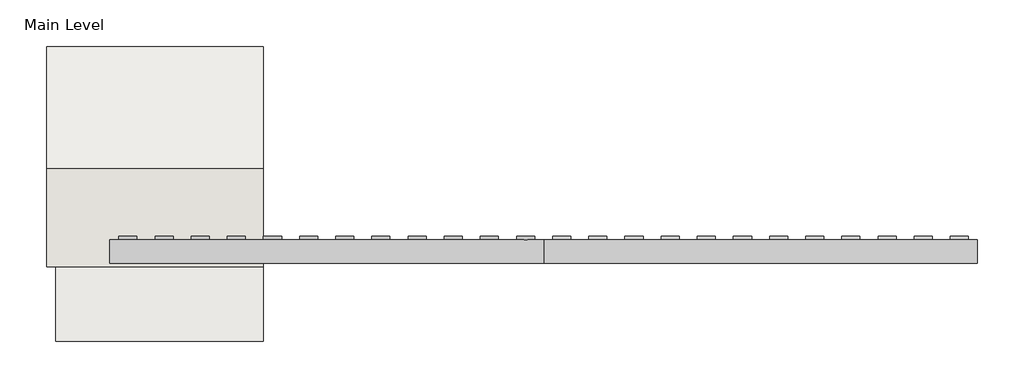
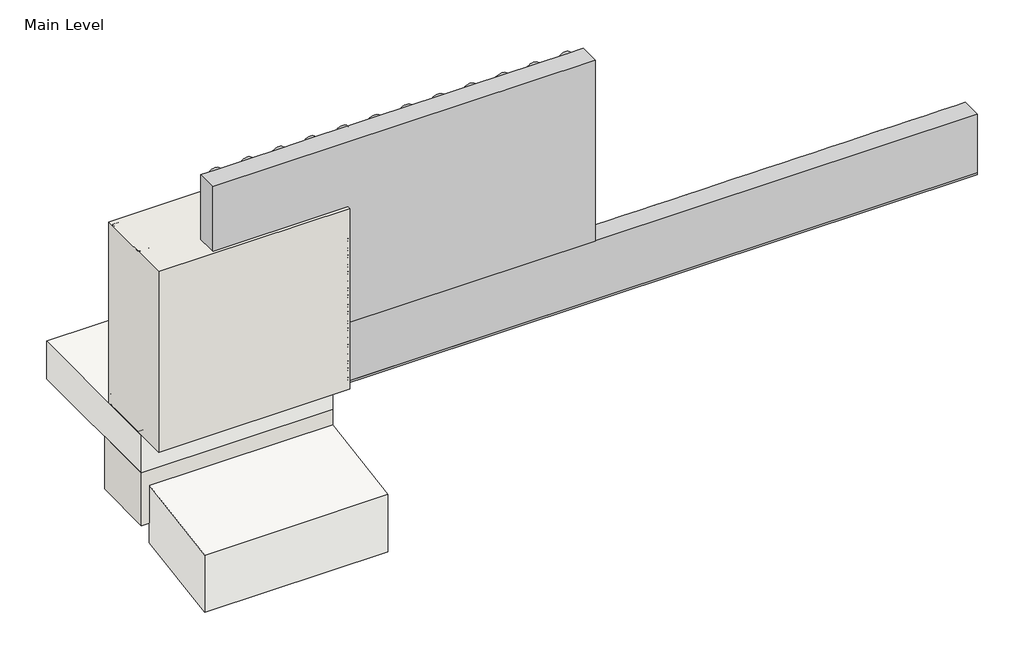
# One storey, incomplete: 10 proxies, 2 slabs, 2 walls.
"""IFC4 building model written with IfcOpenShell, lengths in millimetres."""

from ifc_helpers import new_model, si_unit, frame, origin, origin_with_axes, place, context, project, spatial, polyline, outline, extrude, transform, mapped, element, save
from components import generic_models_31547c53, generic_models_0bbfdc8f, generic_models_1e1ad44f, generic_models_7dd17a53, generic_models_441de798, generic_models_e46152ee, generic_models_9d0e7a2a, proxy_50213ae0, proxy_cc65e3d2, wood_blocking_c9818c35

model = new_model("IFC4")

# Units and contexts
model_context = context("Model", 3, world=origin())
ifc_project = project(units=[si_unit("LENGTHUNIT", "METRE", prefix="MILLI")], contexts=[model_context])

# Site, building, storey
site = spatial("IfcSite", under=ifc_project)
building = spatial("IfcBuilding", under=site)
storey = spatial("IfcBuildingStorey", under=building, Name="Main Level", Elevation=0.0)

# Proxies
placement = place(None, origin())
generic_models_shape = generic_models_31547c53(model_context)
element("IfcBuildingElementProxy", 1, Name="Durabond Generic Model Sealant Vent : Durabond Generic Model Sealant Vent", ObjectType="Durabond Generic Model Sealant Vent : Durabond Generic Model Sealant Vent", at=placement, inside=storey, context=model_context, shape_type="MappedRepresentation", body=[
    mapped(generic_models_shape, transform((26865.4101773, 546.8432813, 8.5594788), x_axis=(1.0, 0.0, 0.0), y_axis=(0.0, 0.08715574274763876, -0.9961946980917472), z_axis=(0.0, 0.9961946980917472, 0.08715574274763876))),
])
generic_models_2_shape = generic_models_0bbfdc8f(model_context)
generic_models_3_shape = generic_models_1e1ad44f(model_context)
generic_models_4_shape = generic_models_7dd17a53(model_context)
generic_models_5_shape = generic_models_441de798(model_context)
element("IfcBuildingElementProxy", 2, Name="CRAi Generic Model Mesh Piece Face Based : CRAi Generic Model Mesh Piece Face Based", ObjectType="CRAi Generic Model Mesh Piece Face Based : CRAi Generic Model Mesh Piece Face Based", at=placement, inside=storey, context=model_context, shape_type="MappedRepresentation", body=[
    mapped(generic_models_2_shape, transform((26933.6726773, 541.9066297, 261.6963215), x_axis=(-1.0, 0.0, 0.0), y_axis=(0.0, 0.0, -1.0), z_axis=(0.0, -1.0, 0.0))),
    mapped(generic_models_3_shape, transform((26933.6726773, 541.9066297, 261.6963215), x_axis=(-1.0, 0.0, 0.0), y_axis=(0.0, 0.0, -1.0), z_axis=(0.0, -1.0, 0.0))),
    mapped(generic_models_4_shape, transform((26933.6726773, 541.9066297, 261.6963215), x_axis=(-1.0, 0.0, 0.0), y_axis=(0.0, 0.0, -1.0), z_axis=(0.0, -1.0, 0.0))),
    mapped(generic_models_5_shape, transform((26933.6726773, 541.9066297, 261.6963215), x_axis=(-1.0, 0.0, 0.0), y_axis=(0.0, 0.0, -1.0), z_axis=(0.0, -1.0, 0.0))),
])
generic_models_6_shape = generic_models_e46152ee(model_context)
element("IfcBuildingElementProxy", 3, Name="Durabond Generic Model Insulation Adhesive Flat : Durabond Generic Model Insulation Adhesive Flat", ObjectType="Durabond Generic Model Insulation Adhesive Flat : Durabond Generic Model Insulation Adhesive Flat", at=placement, inside=storey, context=model_context, shape_type="MappedRepresentation", body=[
    mapped(generic_models_6_shape, transform((26717.7726773, 627.6316297, 76.2), x_axis=(1.0, 0.0, 0.0), y_axis=(0.0, 1.0, 0.0), z_axis=(0.0, 0.0, 1.0))),
])
element("IfcBuildingElementProxy", 4, Name="Durabond Generic Model Insulation Adhesive Flat : Durabond Generic Model Insulation Adhesive Flat", ObjectType="Durabond Generic Model Insulation Adhesive Flat : Durabond Generic Model Insulation Adhesive Flat", at=placement, inside=storey, context=model_context, shape_type="MappedRepresentation", body=[
    mapped(generic_models_6_shape, transform((26819.3726773, 627.6316297, 76.2), x_axis=(1.0, 0.0, 0.0), y_axis=(0.0, 1.0, 0.0), z_axis=(0.0, 0.0, 1.0))),
])
element("IfcBuildingElementProxy", 5, Name="Durabond Generic Model Insulation Adhesive Flat : Durabond Generic Model Insulation Adhesive Flat", ObjectType="Durabond Generic Model Insulation Adhesive Flat : Durabond Generic Model Insulation Adhesive Flat", at=placement, inside=storey, context=model_context, shape_type="MappedRepresentation", body=[
    mapped(generic_models_6_shape, transform((26920.9726773, 627.6316297, 76.2), x_axis=(1.0, 0.0, 0.0), y_axis=(0.0, 1.0, 0.0), z_axis=(0.0, 0.0, 1.0))),
])
element("IfcBuildingElementProxy", 6, Name="Durabond Generic Model Insulation Adhesive Flat : Durabond Generic Model Insulation Adhesive Flat", ObjectType="Durabond Generic Model Insulation Adhesive Flat : Durabond Generic Model Insulation Adhesive Flat", at=placement, inside=storey, context=model_context, shape_type="MappedRepresentation", body=[
    mapped(generic_models_6_shape, transform((27022.5726773, 627.6316297, 76.2), x_axis=(1.0, 0.0, 0.0), y_axis=(0.0, 1.0, 0.0), z_axis=(0.0, 0.0, 1.0))),
])
generic_models_7_shape = generic_models_9d0e7a2a(model_context)
element("IfcBuildingElementProxy", 7, Name="CRAi Generic Model Metal Stud Array : CRAi Generic Model Metal Stud Array", ObjectType="CRAi Generic Model Metal Stud Array : CRAi Generic Model Metal Stud Array", at=placement, inside=storey, context=model_context, shape_type="MappedRepresentation", body=[
    mapped(generic_models_7_shape, transform((26692.3726773, 726.0566297, 6.35), x_axis=(-1.0, 0.0, 0.0), y_axis=(0.0, -1.0, 0.0), z_axis=(0.0, 0.0, 1.0))),
])
proxy_shape = proxy_50213ae0(model_context)
element("IfcBuildingElementProxy", 8, Name="Durabond Generic Model Quantum Select 5-0 Insulation Board : 3\"", ObjectType="Durabond Generic Model Quantum Select 5-0 Insulation Board : 3\"", at=placement, inside=storey, context=model_context, shape_type="MappedRepresentation", body=[
    mapped(proxy_shape, transform((27276.5726773, 624.4566297, 523.392643), x_axis=(1.0, 0.0, 0.0), y_axis=(0.0, 0.0, 1.0), z_axis=(0.0, -1.0, 0.0))),
])
proxy_2_shape = proxy_cc65e3d2(model_context)
element("IfcBuildingElementProxy", 9, Name="Durabond Generic Model Quantum Select 5-0 Vent Board : 3\"", ObjectType="Durabond Generic Model Quantum Select 5-0 Vent Board : 3\"", at=placement, inside=storey, context=model_context, shape_type="MappedRepresentation", body=[
    mapped(proxy_2_shape, transform((27886.1726773, 624.4566297, 116.992643), x_axis=(1.0, 0.0, 0.0), y_axis=(0.0, 0.0, 1.0), z_axis=(0.0, -1.0, 0.0))),
])
wood_blocking_shape = wood_blocking_c9818c35(model_context)
element("IfcBuildingElementProxy", 10, Name="CRAi Generic Model Line Based Metal Framing Track : Wood Blocking", ObjectType="CRAi Generic Model Line Based Metal Framing Track : Wood Blocking", at=placement, inside=storey, context=model_context, shape_type="MappedRepresentation", body=[
    mapped(wood_blocking_shape, transform((26489.1726773, 649.8566297, 0.0), x_axis=(1.0, 0.0, 0.0), y_axis=(0.0, 1.0, 0.0), z_axis=(0.0, 0.0, 1.0))),
])

# Slabs
element("IfcSlab", 11, ObjectType="Durabond Floor Concrete 5\"", at=placement, inside=storey, context=model_context, shape_type="SweptSolid", body=[
    extrude(outline(polyline([(27098.7726773, 633.9816297), (26489.1726773, 633.9816297), (26489.1726773, 1157.8566297), (27098.7726773, 1157.8566297), (27098.7726773, 633.9816297)])), frame((0.0, 0.0, -127.0), z_axis=(0.0, 0.0, 1.0), x_axis=(1.0, 0.0, 0.0)), (0.0, 0.0, 1.0), 127.0),
])
element("IfcSlab", 12, ObjectType="dIRT", at=placement, inside=storey, context=model_context, shape_type="SweptSolid", body=[
    extrude(outline(polyline([(633.9816297, -370.9277103), (329.1816297, -421.7277103), (329.1816297, -228.6), (633.9816297, -177.8), (633.9816297, -370.9277103)])), frame((26514.5726773, 0.0, 0.0), z_axis=(1.0, 0.0, 0.0), x_axis=(0.0, 1.0, 0.0)), (0.0, 0.0, 1.0), 584.2),
])

# Walls
element("IfcWall", 13, ObjectType="189mm (7.5”) EIFS Field Applied on Mtl. Stud Layer - 50mm Grooved Insulation Board Metal Stud Wall", at=placement, inside=storey, context=model_context, shape_type="SweptSolid", body=[
    extrude(outline(polyline([(27098.7726773, 538.7316297), (26489.1726773, 538.7316297), (26489.1726773, 814.9566297), (27098.7726773, 814.9566297), (27098.7726773, 538.7316297)])), origin_with_axes(), (0.0, 0.0, 1.0), 609.6),
])
element("IfcWall", 14, ObjectType="CRAi Generic 8\"", at=placement, inside=storey, context=model_context, shape_type="SweptSolid", body=[
    extrude(outline(polyline([(27098.7726773, 633.9816297), (26489.1726773, 633.9816297), (26489.1726773, 837.1816297), (27098.7726773, 837.1816297), (27098.7726773, 633.9816297)])), frame((0.0, 0.0, -304.8), z_axis=(0.0, 0.0, 1.0), x_axis=(1.0, 0.0, 0.0)), (0.0, 0.0, 1.0), 177.8),
])

save(model, "model.ifc")
